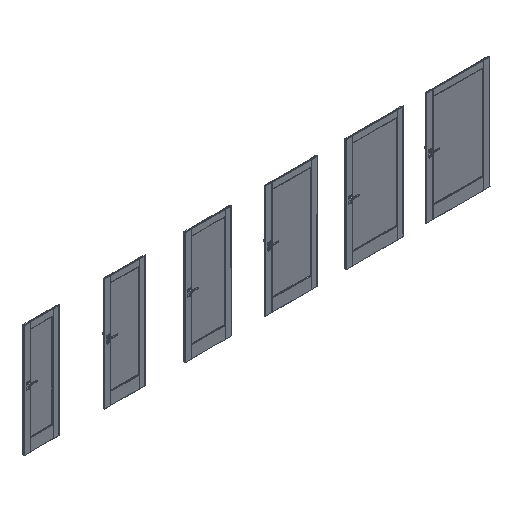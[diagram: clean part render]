
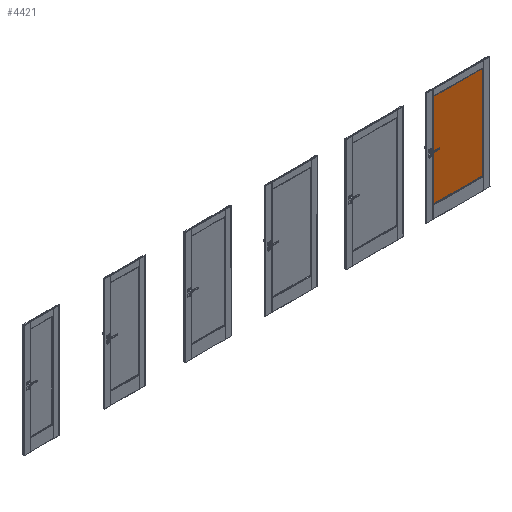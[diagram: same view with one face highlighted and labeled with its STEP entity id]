
A CAD part, isometric view. The second image highlights one B-rep face of the part: STEP entity #4421.
In plain terms, the highlighted planar face has unit normal (0, -1, 0).
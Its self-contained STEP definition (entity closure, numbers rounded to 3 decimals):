
#2801=FACE_OUTER_BOUND('',#8147,.T.);
#4421=ADVANCED_FACE('',(#2801),#5547,.F.);
#5547=PLANE('',#29542);
#8147=EDGE_LOOP('',(#13778,#13779,#13780,#13781));
#13778=ORIENTED_EDGE('',*,*,#21748,.T.);
#13779=ORIENTED_EDGE('',*,*,#21749,.T.);
#13780=ORIENTED_EDGE('',*,*,#21750,.T.);
#13781=ORIENTED_EDGE('',*,*,#21751,.T.);
#18340=VERTEX_POINT('',#49052);
#18341=VERTEX_POINT('',#49053);
#18342=VERTEX_POINT('',#49055);
#18343=VERTEX_POINT('',#49057);
#21748=EDGE_CURVE('',#18340,#18341,#24720,.T.);
#21749=EDGE_CURVE('',#18341,#18342,#24721,.T.);
#21750=EDGE_CURVE('',#18342,#18343,#24722,.T.);
#21751=EDGE_CURVE('',#18343,#18340,#24723,.T.);
#24720=LINE('',#49051,#27042);
#24721=LINE('',#49054,#27043);
#24722=LINE('',#49056,#27044);
#24723=LINE('',#49058,#27045);
#27042=VECTOR('',#35287,1.);
#27043=VECTOR('',#35288,1.);
#27044=VECTOR('',#35289,1.);
#27045=VECTOR('',#35290,1.);
#29542=AXIS2_PLACEMENT_3D('',#49059,#35291,#35292);
#35287=DIRECTION('',(0.,0.,1.));
#35288=DIRECTION('',(-1.,0.,0.));
#35289=DIRECTION('',(0.,0.,-1.));
#35290=DIRECTION('',(1.,0.,0.));
#35291=DIRECTION('',(0.,1.,0.));
#35292=DIRECTION('',(0.,0.,1.));
#49051=CARTESIAN_POINT('',(7957.05,-21.95,2070.));
#49052=CARTESIAN_POINT('',(7957.05,-21.95,219.765));
#49053=CARTESIAN_POINT('',(7957.05,-21.95,1912.235));
#49054=CARTESIAN_POINT('',(6465.,-21.95,1912.235));
#49055=CARTESIAN_POINT('',(7042.85,-21.95,1912.235));
#49056=CARTESIAN_POINT('',(7042.85,-21.95,2070.));
#49057=CARTESIAN_POINT('',(7042.85,-21.95,219.765));
#49058=CARTESIAN_POINT('',(6465.,-21.95,219.765));
#49059=CARTESIAN_POINT('',(7732.,-21.95,1925.8));
